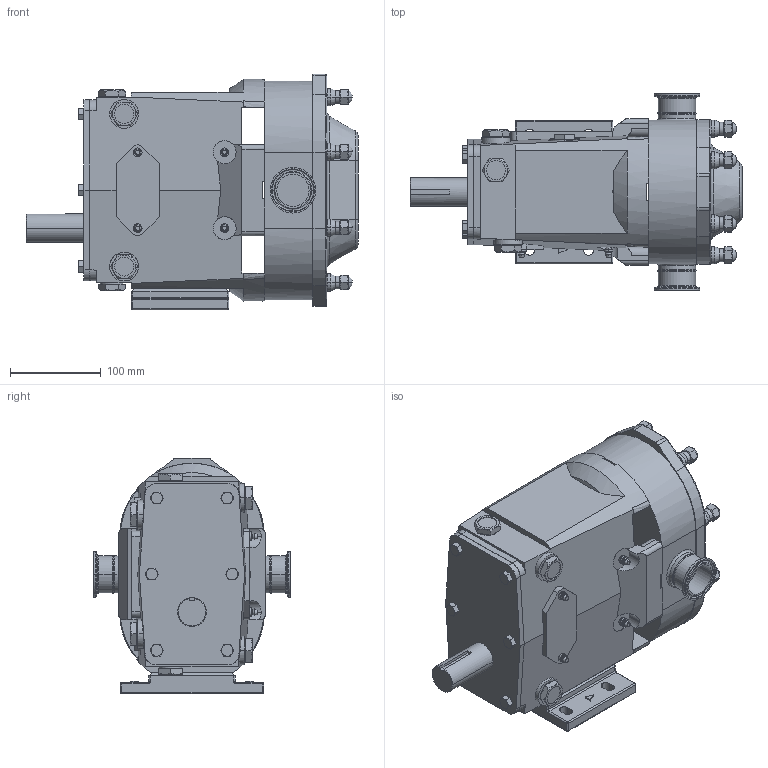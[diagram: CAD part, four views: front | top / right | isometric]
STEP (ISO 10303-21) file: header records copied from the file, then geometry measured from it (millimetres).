
FILE_DESCRIPTION (( 'STEP AP203' ), '1' );
FILE_NAME ('Waukesha 030U2-Lower Shaft.STEP', '2019-01-22T20:07:37', ( '' ), ( '' ), 'SwSTEP 2.0', 'SolidWorks 2014', '' );
FILE_SCHEMA (( 'CONFIG_CONTROL_DESIGN' ));
Products named in the file (1): Waukesha 030U2-Lower Shaft
Bounding box: 366.78 x 217.17 x 260.68 mm (x, y, z)
Volume: 7665561.9 mm3; surface area: 428218.4 mm2
Topology: 1 solids, 29 shells, 1540 faces, 3732 edges, 2315 vertices
Faces by surface type: plane 779, cylinder 314, cone 255, bspline 109, torus 59, sphere 24
Entity records: 47317 total; most frequent: CARTESIAN_POINT 12336, ORIENTED_EDGE 7304, DIRECTION 6929, EDGE_CURVE 3652, AXIS2_PLACEMENT_3D 2361, VERTEX_POINT 2315, LINE 2207, VECTOR 2207
